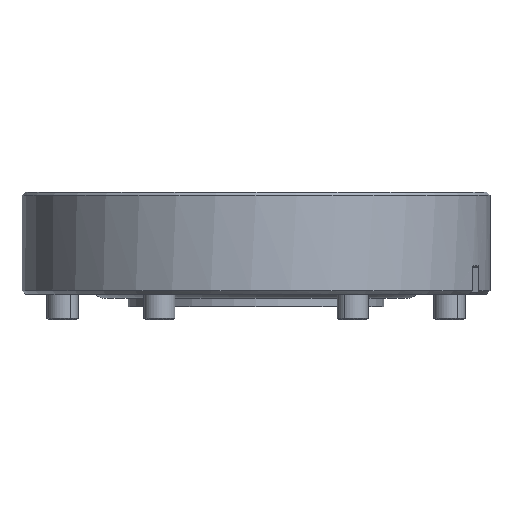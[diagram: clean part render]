
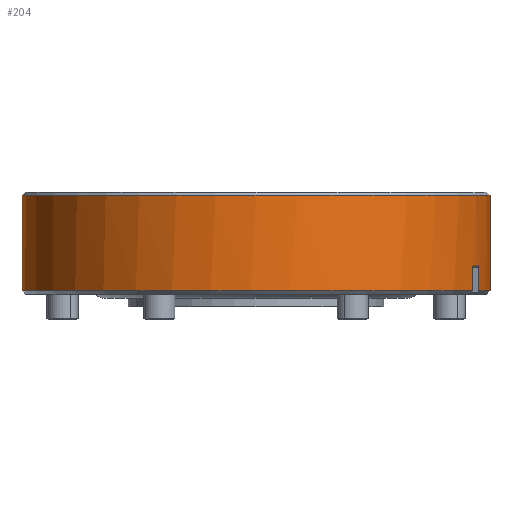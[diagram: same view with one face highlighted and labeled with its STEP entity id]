
A CAD part, left-side view. The second image highlights one B-rep face of the part: STEP entity #204.
In plain terms, the highlighted cylindrical face has radius 37.5 mm (diameter 75 mm), a partial arc.
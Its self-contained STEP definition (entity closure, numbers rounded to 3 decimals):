
#29 = VERTEX_POINT ( 'NONE', #1083 ) ;
#34 = CARTESIAN_POINT ( 'NONE',  ( -14.195, 4.357, 34.71 ) ) ;
#74 = CARTESIAN_POINT ( 'NONE',  ( -14.225, 0., 34.697 ) ) ;
#144 = DIRECTION ( 'NONE',  ( 0., 0., -1. ) ) ;
#158 = CARTESIAN_POINT ( 'NONE',  ( 0., 0., 0. ) ) ;
#204 = ADVANCED_FACE ( 'NONE', ( #3696 ), #1055, .T. ) ;
#251 = DIRECTION ( 'NONE',  ( 0., 0., -1. ) ) ;
#394 = CARTESIAN_POINT ( 'NONE',  ( 0., 0., 37.5 ) ) ;
#407 = VECTOR ( 'NONE', #1275, 1000. ) ;
#423 = EDGE_CURVE ( 'NONE', #1794, #3605, #2580, .T. ) ;
#431 = CARTESIAN_POINT ( 'NONE',  ( 0., 15.8, 0. ) ) ;
#483 = CARTESIAN_POINT ( 'NONE',  ( -11.406, 0.5, 35.723 ) ) ;
#604 = VECTOR ( 'NONE', #2596, 1000. ) ;
#675 = VERTEX_POINT ( 'NONE', #1425 ) ;
#706 = EDGE_CURVE ( 'NONE', #2587, #675, #2936, .T. ) ;
#715 = CARTESIAN_POINT ( 'NONE',  ( -14.225, 4.279, 34.697 ) ) ;
#720 = ORIENTED_EDGE ( 'NONE', *, *, #2952, .T. ) ;
#743 = DIRECTION ( 'NONE',  ( 0., 0., 1. ) ) ;
#805 = CIRCLE ( 'NONE', #1777, 37.5 ) ;
#848 = CIRCLE ( 'NONE', #3597, 37.5 ) ;
#859 = CARTESIAN_POINT ( 'NONE',  ( 0., 15.8, -37.5 ) ) ;
#968 = ORIENTED_EDGE ( 'NONE', *, *, #1952, .F. ) ;
#1004 = AXIS2_PLACEMENT_3D ( 'NONE', #158, #1983, #1384 ) ;
#1015 = ORIENTED_EDGE ( 'NONE', *, *, #423, .T. ) ;
#1020 = CARTESIAN_POINT ( 'NONE',  ( -11.692, 4.5, 35.631 ) ) ;
#1037 = VECTOR ( 'NONE', #1647, 1000. ) ;
#1055 = CYLINDRICAL_SURFACE ( 'NONE', #1004, 37.5 ) ;
#1083 = CARTESIAN_POINT ( 'NONE',  ( -14.225, 0.5, 34.697 ) ) ;
#1084 = CARTESIAN_POINT ( 'NONE',  ( 0., 0.5, 0. ) ) ;
#1104 = CARTESIAN_POINT ( 'NONE',  ( -11.543, 4.468, 35.679 ) ) ;
#1141 = CARTESIAN_POINT ( 'NONE',  ( -11.616, 4.5, 35.656 ) ) ;
#1180 = DIRECTION ( 'NONE',  ( 0., 1., 0. ) ) ;
#1243 = ORIENTED_EDGE ( 'NONE', *, *, #2313, .F. ) ;
#1275 = DIRECTION ( 'NONE',  ( 0., 1., 0. ) ) ;
#1323 = LINE ( 'NONE', #74, #407 ) ;
#1369 = CIRCLE ( 'NONE', #3725, 37.5 ) ;
#1384 = DIRECTION ( 'NONE',  ( 0., 0., -1. ) ) ;
#1422 = VERTEX_POINT ( 'NONE', #2426 ) ;
#1425 = CARTESIAN_POINT ( 'NONE',  ( 0., 0.5, -37.5 ) ) ;
#1470 = LINE ( 'NONE', #394, #1037 ) ;
#1560 = CARTESIAN_POINT ( 'NONE',  ( 0., 15.8, 37.5 ) ) ;
#1589 = CARTESIAN_POINT ( 'NONE',  ( -11.406, 4.2, 35.723 ) ) ;
#1628 = CARTESIAN_POINT ( 'NONE',  ( -14.225, 4.2, 34.697 ) ) ;
#1647 = DIRECTION ( 'NONE',  ( 0., -1., 0. ) ) ;
#1648 = ORIENTED_EDGE ( 'NONE', *, *, #706, .T. ) ;
#1777 = AXIS2_PLACEMENT_3D ( 'NONE', #1838, #3909, #1860 ) ;
#1785 = DIRECTION ( 'NONE',  ( 0., -1., 0. ) ) ;
#1790 = VERTEX_POINT ( 'NONE', #3190 ) ;
#1794 = VERTEX_POINT ( 'NONE', #483 ) ;
#1838 = CARTESIAN_POINT ( 'NONE',  ( 0., 4.5, 0. ) ) ;
#1860 = DIRECTION ( 'NONE',  ( 0., 0., 1. ) ) ;
#1952 = EDGE_CURVE ( 'NONE', #1422, #1790, #805, .T. ) ;
#1983 = DIRECTION ( 'NONE',  ( 0., -1., 0. ) ) ;
#2025 = VERTEX_POINT ( 'NONE', #1560 ) ;
#2068 = VERTEX_POINT ( 'NONE', #2188 ) ;
#2077 = CARTESIAN_POINT ( 'NONE',  ( 0., 0.5, 0. ) ) ;
#2080 = EDGE_CURVE ( 'NONE', #29, #2068, #1323, .T. ) ;
#2139 = AXIS2_PLACEMENT_3D ( 'NONE', #1084, #3519, #144 ) ;
#2188 = CARTESIAN_POINT ( 'NONE',  ( -14.225, 4.2, 34.697 ) ) ;
#2198 = CARTESIAN_POINT ( 'NONE',  ( -14.092, 4.467, 34.751 ) ) ;
#2230 = EDGE_CURVE ( 'NONE', #1794, #3040, #3841, .T. ) ;
#2313 = EDGE_CURVE ( 'NONE', #2025, #3605, #1470, .T. ) ;
#2322 = CARTESIAN_POINT ( 'NONE',  ( -11.406, 4.2, 35.723 ) ) ;
#2340 = EDGE_CURVE ( 'NONE', #1422, #3040, #3824, .T. ) ;
#2356 = EDGE_LOOP ( 'NONE', ( #1243, #720, #1648, #3243, #2447, #3560, #968, #2378, #2491, #1015 ) ) ;
#2378 = ORIENTED_EDGE ( 'NONE', *, *, #2340, .T. ) ;
#2426 = CARTESIAN_POINT ( 'NONE',  ( -11.692, 4.5, 35.631 ) ) ;
#2447 = ORIENTED_EDGE ( 'NONE', *, *, #2080, .T. ) ;
#2491 = ORIENTED_EDGE ( 'NONE', *, *, #2230, .F. ) ;
#2497 = CARTESIAN_POINT ( 'NONE',  ( -14.02, 4.5, 34.781 ) ) ;
#2580 = CIRCLE ( 'NONE', #2139, 37.5 ) ;
#2587 = VERTEX_POINT ( 'NONE', #859 ) ;
#2596 = DIRECTION ( 'NONE',  ( 0., 1., 0. ) ) ;
#2825 = EDGE_CURVE ( 'NONE', #2068, #1790, #2972, .T. ) ;
#2936 = LINE ( 'NONE', #3861, #3116 ) ;
#2952 = EDGE_CURVE ( 'NONE', #2025, #2587, #848, .T. ) ;
#2972 = B_SPLINE_CURVE_WITH_KNOTS ( 'NONE', 3,
 ( #1628, #715, #34, #2198, #2497, #3080 ),
 .UNSPECIFIED., .F., .F.,
 ( 4, 2, 4 ),
 ( 0., 0., 0. ),
 .UNSPECIFIED. ) ;
#3040 = VERTEX_POINT ( 'NONE', #1589 ) ;
#3080 = CARTESIAN_POINT ( 'NONE',  ( -13.947, 4.5, 34.81 ) ) ;
#3116 = VECTOR ( 'NONE', #1785, 1000. ) ;
#3190 = CARTESIAN_POINT ( 'NONE',  ( -13.947, 4.5, 34.81 ) ) ;
#3243 = ORIENTED_EDGE ( 'NONE', *, *, #3765, .T. ) ;
#3404 = CARTESIAN_POINT ( 'NONE',  ( 0., 0.5, 37.5 ) ) ;
#3508 = CARTESIAN_POINT ( 'NONE',  ( -11.406, 4.279, 35.723 ) ) ;
#3519 = DIRECTION ( 'NONE',  ( 0., 1., 0. ) ) ;
#3560 = ORIENTED_EDGE ( 'NONE', *, *, #2825, .T. ) ;
#3597 = AXIS2_PLACEMENT_3D ( 'NONE', #431, #3793, #743 ) ;
#3605 = VERTEX_POINT ( 'NONE', #3404 ) ;
#3696 = FACE_OUTER_BOUND ( 'NONE', #2356, .T. ) ;
#3725 = AXIS2_PLACEMENT_3D ( 'NONE', #2077, #1180, #251 ) ;
#3757 = CARTESIAN_POINT ( 'NONE',  ( -11.406, 0., 35.723 ) ) ;
#3765 = EDGE_CURVE ( 'NONE', #675, #29, #1369, .T. ) ;
#3793 = DIRECTION ( 'NONE',  ( 0., -1., 0. ) ) ;
#3824 = B_SPLINE_CURVE_WITH_KNOTS ( 'NONE', 3,
 ( #1020, #1141, #1104, #3845, #3508, #2322 ),
 .UNSPECIFIED., .F., .F.,
 ( 4, 2, 4 ),
 ( 0., 0., 0. ),
 .UNSPECIFIED. ) ;
#3841 = LINE ( 'NONE', #3757, #604 ) ;
#3845 = CARTESIAN_POINT ( 'NONE',  ( -11.437, 4.357, 35.713 ) ) ;
#3861 = CARTESIAN_POINT ( 'NONE',  ( 0., 0., -37.5 ) ) ;
#3909 = DIRECTION ( 'NONE',  ( 0., -1., 0. ) ) ;
